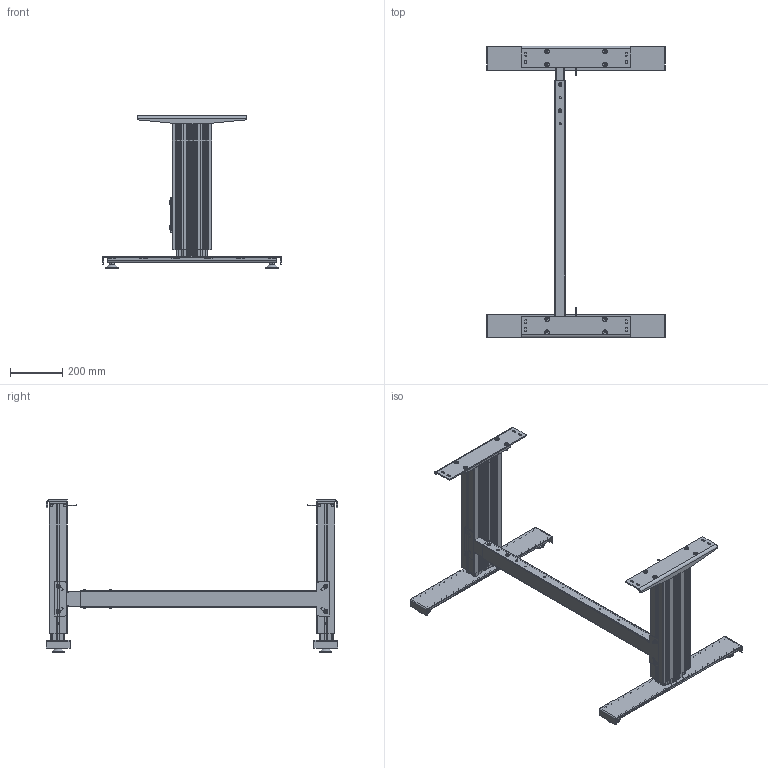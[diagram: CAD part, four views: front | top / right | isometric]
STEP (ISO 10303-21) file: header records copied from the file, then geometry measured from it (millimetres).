
FILE_DESCRIPTION(/* description */ ('Unknown'),/* implementation_level */ '2;1');
FILE_NAME(/* name */ '108.00311_01-Eingefahren',/* time_stamp */ '2022-02-10T09:24:31+01:00',/* author */ ('Unknown'),/* organization */ ('Unknown'),/* preprocessor_version */ 'ST-DEVELOPER v18.1',/* originating_system */ 'Solid Edge',/* authorisation */ 'Unknown');
FILE_SCHEMA (('AUTOMOTIVE_DESIGN {1 0 10303 214 3 1 1}'));
Products named in the file (35): 108.00311; 306.00803_oa_0; 126.00147; 119.00315; 119.00314; 142.00166; 142.00343; 113.00002; 124.00123; 107.00028_oa_1; 115.00007_oa_2; 306.00803_oa_3; 107.00028_oa_4; 115.00007_oa_5; 127.00635; 060339~2; 060340~3; Sechskantmutter M6 DIN 934; Scheibe Ø6,4 DIN 125; Halbrundkopfschraube mit Innensechskant M8x12 ISO 7380-1; Scheibe Ø8,4 DIN 125; Nutenstein M8_montiert; Halbrundkopfschraube mit Innensechskant und Bund M6x16 ISO 7380-2; 127.00545; 127.00548; 127.00566; 127.00567; 127.00548_461_469_Kehlnaht 1_oa_6; 113.00006; 113.00006-ohne Mutter; Mutter M10; 115.00165; 127.00223; 142.00279; 142.00068
Assembly tree (76 placements, depth 4):
  108.00311
    306.00803_oa_0
      126.00147
      119.00315
      119.00314
      142.00166  x4
      142.00343  x2
      113.00002
      124.00123
      107.00028_oa_1
        115.00007_oa_2
    306.00803_oa_3
      126.00147
      119.00315
      119.00314
      142.00166  x4
      142.00343  x2
      113.00002
      124.00123
      107.00028_oa_4
        115.00007_oa_5
    127.00635
      060339~2
      060340~3
      Sechskantmutter M6 DIN 934  x4
      Scheibe Ø6,4 DIN 125  x4
      Halbrundkopfschraube mit Innensechskant M8x12 ISO 7380-1  x4
      Scheibe Ø8,4 DIN 125  x4
      Nutenstein M8_montiert  x4
      Halbrundkopfschraube mit Innensechskant und Bund M6x16 ISO 7380-2  x4
    127.00545  x2
      127.00548
        127.00566
        127.00567
        127.00548_461_469_Kehlnaht 1_oa_6
      113.00006
        113.00006-ohne Mutter
        Mutter M10
    115.00165  x2
      127.00223
      142.00279
      142.00068
Bounding box: 680 x 1110 x 580 mm (x, y, z)
Volume: 6585146.5 mm3; surface area: 3454187.1 mm2
Topology: 102 solids, 102 shells, 6080 faces, 17067 edges, 11263 vertices
Faces by surface type: plane 3316, cylinder 2344, cone 234, torus 108, bspline 74, sphere 4
Full cylindrical faces by diameter (mm): 2.2 x2, 3.242 x4, 3.4 x2, 4 x6, 5 x10, 5.5 x8, 6 x8, 6.4 x4, 6.6 x2, 6.647 x12, 7 x16, 8 x18, 8.376 x10, 8.5 x28, 8.7 x8, 9 x8, 9.5 x4, 10 x4, 12 x4, 12.5 x2, 13.5 x2, 13.6 x4, 14 x4, 15 x4, 16.8 x4, 19 x4, 25 x14, 29 x4, 30 x4, 35 x4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
Entity records: 102406 total; most frequent: CARTESIAN_POINT 17486, ORIENTED_EDGE 15324, DIRECTION 15086, EDGE_CURVE 7662, VERTEX_POINT 5149, AXIS2_PLACEMENT_3D 5058, LINE 4970, VECTOR 4970
